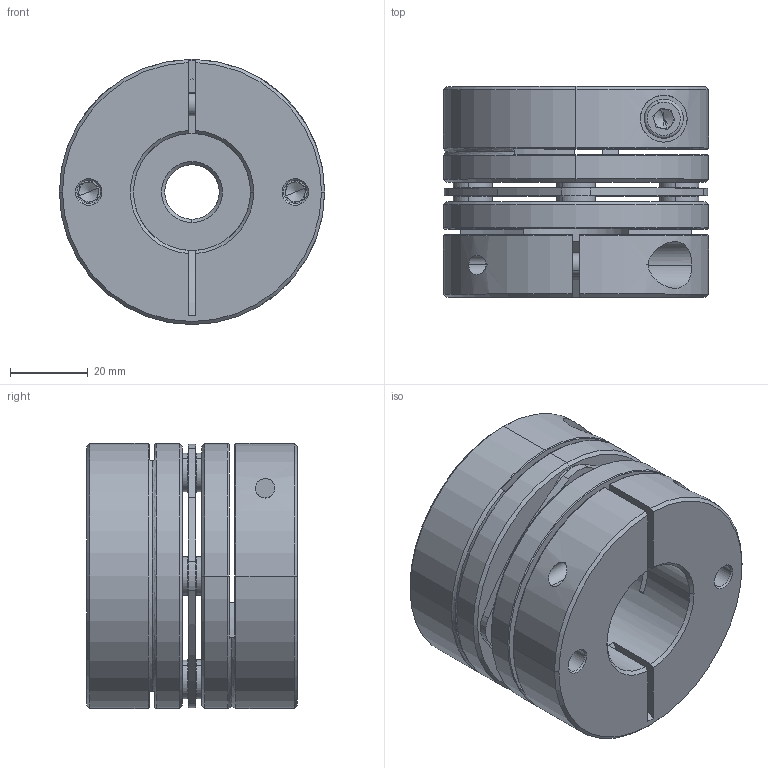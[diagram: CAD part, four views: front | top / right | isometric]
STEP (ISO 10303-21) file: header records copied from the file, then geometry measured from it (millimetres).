
FILE_DESCRIPTION (( 'STEP AP203' ), '1' );
FILE_NAME ('LD1-D68-14-30.STEP', '2021-10-26T07:47:27', ( '' ), ( '' ), 'SwSTEP 2.0', 'SolidWorks 2018', '' );
FILE_SCHEMA (( 'CONFIG_CONTROL_DESIGN' ));
Length unit declared in the file: millimetre
Products named in the file (2): LD1-D68-14-30; 錨璃101^LD1-D68
Assembly tree (1 placements, depth 2):
  LD1-D68-14-30
    錨璃101^LD1-D68
Bounding box: 68 x 54 x 68 mm (x, y, z)
Volume: 145673.5 mm3; surface area: 46275.1 mm2
Topology: 1 solids, 15 shells, 443 faces, 1063 edges, 652 vertices
Faces by surface type: cylinder 161, plane 138, cone 122, torus 22
Entity records: 13477 total; most frequent: CARTESIAN_POINT 2615, DIRECTION 2435, ORIENTED_EDGE 2094, EDGE_CURVE 1047, AXIS2_PLACEMENT_3D 988, VERTEX_POINT 652, CIRCLE 541, EDGE_LOOP 523
